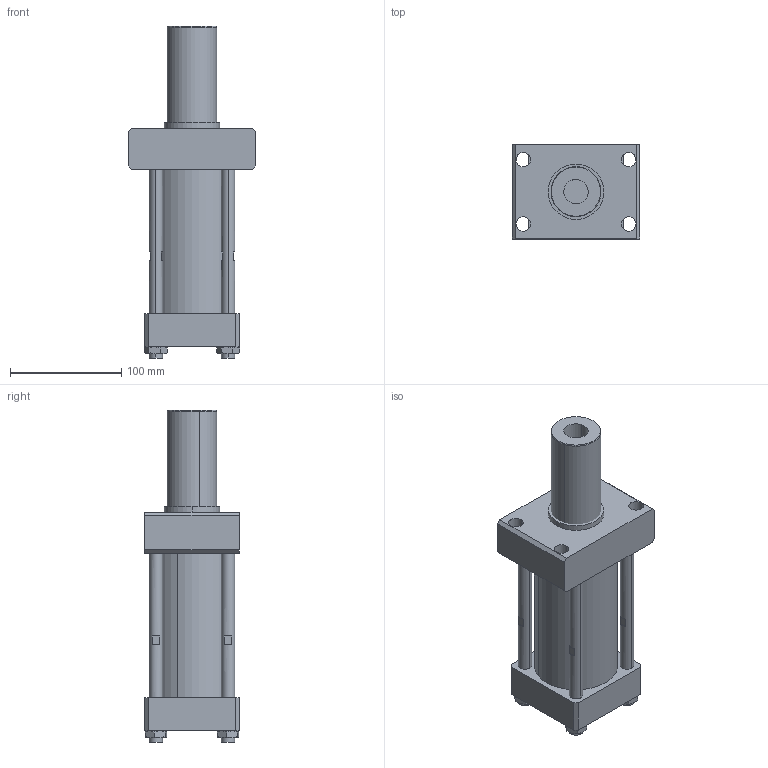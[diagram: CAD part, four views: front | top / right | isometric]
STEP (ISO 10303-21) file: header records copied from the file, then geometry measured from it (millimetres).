
FILE_DESCRIPTION (( 'STEP AP203' ), '1' );
FILE_NAME ('Tie rod cylinder 63 bore 75mm st.STEP', '2022-10-28T17:22:05', ( '' ), ( '' ), 'SwSTEP 2.0', 'SolidWorks 2017', '' );
FILE_SCHEMA (( 'CONFIG_CONTROL_DESIGN' ));
Length unit declared in the file: millimetre
Products named in the file (7): ME5-63 End cover; ME5-63 STUD; ME5-63 piston; hex thin nut chamfered gradeab_iso_ISO - 4035 - M12 - N; Tie rod cylinder 63 bore 75mm st; ME5-63 Front cover; ME5-63 pipe housing
Assembly tree (12 placements, depth 2):
  Tie rod cylinder 63 bore 75mm st
    ME5-63 Front cover
    ME5-63 pipe housing
    ME5-63 End cover
    ME5-63 STUD  x4
    ME5-63 piston
    hex thin nut chamfered gradeab_iso_ISO - 4035 - M12 - N  x4
Bounding box: 115 x 85 x 299 mm (x, y, z)
Volume: 1040823.4 mm3; surface area: 201591.1 mm2
Topology: 12 solids, 12 shells, 566 faces, 1389 edges, 900 vertices
Faces by surface type: plane 303, bspline 111, cylinder 82, cone 70
Entity records: 20663 total; most frequent: CARTESIAN_POINT 9399, ORIENTED_EDGE 2310, DIRECTION 1768, EDGE_CURVE 1155, VERTEX_POINT 762, VECTOR 750, LINE 750, EDGE_LOOP 525
